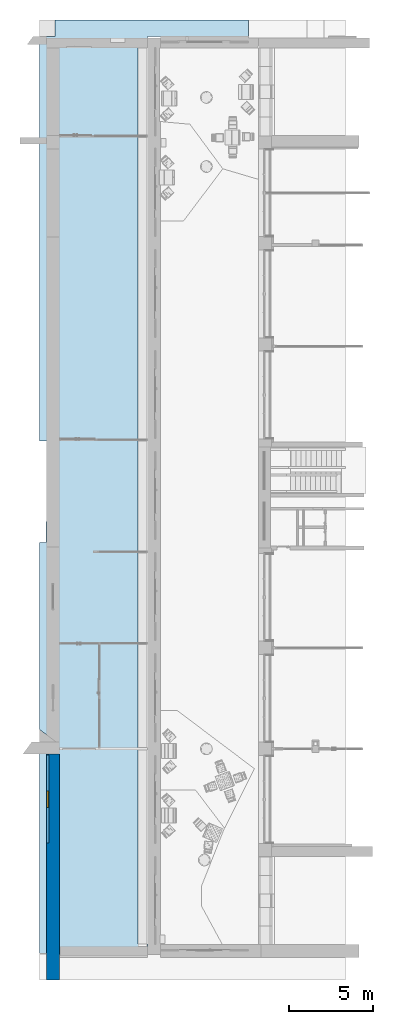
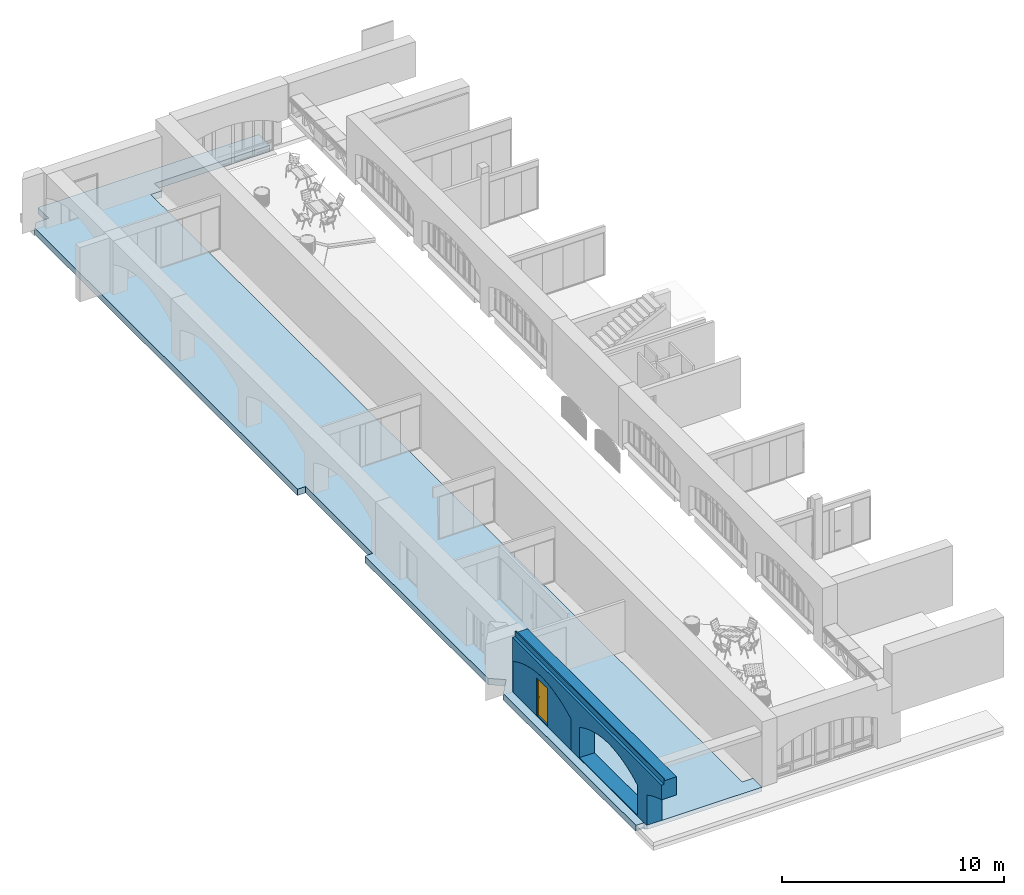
# One storey, part 77 of 88: 2 walls, 1 door, 1 slab, 3 openings.
"""IFC2X3 building model written with IfcOpenShell, lengths in millimetres."""

from ifc_helpers import new_model, entity, si_unit, converted_unit, derived_unit, direction, frame, frame_2d, origin, place, context, subcontext, project, spatial, polyline, rectangle, outline, extrude, faceted_brep, source, transform, mapped, material, layer, layer_set, type_object, type_shapes, element, fill, save


model = new_model("IFC2X3")

# Units and contexts
model_context = context("Model", 3, precision=0.01, world=origin(), true_north=direction((6.123031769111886e-17, 1.0)))
body_context = subcontext(model_context, "Body", "Model", "MODEL_VIEW")
ifc_project = project(units=[si_unit("LENGTHUNIT", "METRE", prefix="MILLI"), si_unit("AREAUNIT", "SQUARE_METRE"), si_unit("VOLUMEUNIT", "CUBIC_METRE"), converted_unit("PLANEANGLEUNIT", "DEGREE", entity("IfcPlaneAngleMeasure", 0.017453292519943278), si_unit("PLANEANGLEUNIT", "RADIAN"), dimensions=[0, 0, 0, 0, 0, 0, 0]), si_unit("MASSUNIT", "GRAM", prefix="KILO"), derived_unit("MASSDENSITYUNIT", [(si_unit("MASSUNIT", "GRAM", prefix="KILO"), 1), (si_unit("LENGTHUNIT", "METRE"), -3)]), derived_unit("IONCONCENTRATIONUNIT", [(si_unit("MASSUNIT", "GRAM", prefix="KILO"), 1), (si_unit("LENGTHUNIT", "METRE"), -3)]), derived_unit("MOMENTOFINERTIAUNIT", [(si_unit("LENGTHUNIT", "METRE"), 4)]), si_unit("TIMEUNIT", "SECOND"), si_unit("FREQUENCYUNIT", "HERTZ"), si_unit("THERMODYNAMICTEMPERATUREUNIT", "DEGREE_CELSIUS"), derived_unit("THERMALTRANSMITTANCEUNIT", [(si_unit("MASSUNIT", "GRAM", prefix="KILO"), 1), (si_unit("THERMODYNAMICTEMPERATUREUNIT", "KELVIN"), -1), (si_unit("TIMEUNIT", "SECOND"), -3)]), derived_unit("THERMALCONDUCTANCEUNIT", [(si_unit("MASSUNIT", "GRAM", prefix="KILO"), 1), (si_unit("THERMODYNAMICTEMPERATUREUNIT", "KELVIN"), -1), (si_unit("TIMEUNIT", "SECOND"), -3), (si_unit("LENGTHUNIT", "METRE"), 1)]), derived_unit("VOLUMETRICFLOWRATEUNIT", [(si_unit("LENGTHUNIT", "METRE", prefix="DECI"), 3), (si_unit("TIMEUNIT", "SECOND"), -1)]), derived_unit("MASSFLOWRATEUNIT", [(si_unit("MASSUNIT", "GRAM", prefix="KILO"), 1), (si_unit("TIMEUNIT", "SECOND"), -1)]), derived_unit("ROTATIONALFREQUENCYUNIT", [(si_unit("TIMEUNIT", "SECOND"), -1)]), si_unit("ELECTRICCURRENTUNIT", "AMPERE"), si_unit("ELECTRICVOLTAGEUNIT", "VOLT"), si_unit("POWERUNIT", "WATT"), si_unit("FORCEUNIT", "NEWTON", prefix="KILO"), si_unit("ILLUMINANCEUNIT", "LUX"), si_unit("LUMINOUSFLUXUNIT", "LUMEN"), si_unit("LUMINOUSINTENSITYUNIT", "CANDELA"), si_unit("ENERGYUNIT", "JOULE"), derived_unit("USERDEFINED", [(si_unit("MASSUNIT", "GRAM", prefix="KILO"), -1), (si_unit("LENGTHUNIT", "METRE"), -2), (si_unit("TIMEUNIT", "SECOND"), 3), (si_unit("LUMINOUSFLUXUNIT", "LUMEN"), 1)]), derived_unit("USERDEFINED", [(si_unit("MASSUNIT", "GRAM", prefix="KILO"), 1), (si_unit("TIMEUNIT", "SECOND"), -3), (si_unit("LENGTHUNIT", "METRE"), 3), (si_unit("ELECTRICCURRENTUNIT", "AMPERE"), -2)]), derived_unit("SOUNDPOWERUNIT", [(si_unit("MASSUNIT", "GRAM", prefix="KILO"), 1), (si_unit("TIMEUNIT", "SECOND"), -3), (si_unit("LENGTHUNIT", "METRE"), 2)]), derived_unit("SOUNDPRESSUREUNIT", [(si_unit("MASSUNIT", "GRAM", prefix="KILO"), 1), (si_unit("LENGTHUNIT", "METRE"), -1), (si_unit("TIMEUNIT", "SECOND"), -2)]), derived_unit("LINEARVELOCITYUNIT", [(si_unit("LENGTHUNIT", "METRE"), 1), (si_unit("TIMEUNIT", "SECOND"), -1)]), si_unit("PRESSUREUNIT", "PASCAL"), derived_unit("USERDEFINED", [(si_unit("MASSUNIT", "GRAM", prefix="KILO"), 1), (si_unit("LENGTHUNIT", "METRE"), -2), (si_unit("TIMEUNIT", "SECOND"), -2)]), derived_unit("LINEARFORCEUNIT", [(si_unit("MASSUNIT", "GRAM", prefix="KILO"), 1), (si_unit("TIMEUNIT", "SECOND"), -2)]), derived_unit("PLANARFORCEUNIT", [(si_unit("MASSUNIT", "GRAM", prefix="KILO"), 1), (si_unit("LENGTHUNIT", "METRE"), -1), (si_unit("TIMEUNIT", "SECOND"), -2)]), derived_unit("SPECIFICHEATCAPACITYUNIT", [(si_unit("THERMODYNAMICTEMPERATUREUNIT", "KELVIN"), -1), (si_unit("LENGTHUNIT", "METRE"), 2), (si_unit("TIMEUNIT", "SECOND"), -2)]), derived_unit("HEATFLUXDENSITYUNIT", [(si_unit("MASSUNIT", "GRAM", prefix="KILO"), 1), (si_unit("TIMEUNIT", "SECOND"), -3)]), derived_unit("HEATINGVALUEUNIT", [(si_unit("LENGTHUNIT", "METRE"), 2), (si_unit("TIMEUNIT", "SECOND"), -2)]), derived_unit("VAPORPERMEABILITYUNIT", [(si_unit("LENGTHUNIT", "METRE"), -1), (si_unit("TIMEUNIT", "SECOND"), 1)]), derived_unit("DYNAMICVISCOSITYUNIT", [(si_unit("MASSUNIT", "GRAM", prefix="KILO"), 1), (si_unit("TIMEUNIT", "SECOND"), -1), (si_unit("LENGTHUNIT", "METRE"), -1)]), derived_unit("THERMALEXPANSIONCOEFFICIENTUNIT", [(si_unit("THERMODYNAMICTEMPERATUREUNIT", "KELVIN"), -1)]), derived_unit("MODULUSOFELASTICITYUNIT", [(si_unit("MASSUNIT", "GRAM", prefix="KILO"), 1), (si_unit("LENGTHUNIT", "METRE"), -1), (si_unit("TIMEUNIT", "SECOND"), -2)]), derived_unit("ISOTHERMALMOISTURECAPACITYUNIT", [(si_unit("MASSUNIT", "GRAM", prefix="KILO"), -1), (si_unit("LENGTHUNIT", "METRE"), 3)]), derived_unit("MOISTUREDIFFUSIVITYUNIT", [(si_unit("TIMEUNIT", "SECOND"), -1), (si_unit("LENGTHUNIT", "METRE"), 2)]), derived_unit("MASSPERLENGTHUNIT", [(si_unit("MASSUNIT", "GRAM", prefix="KILO"), 1), (si_unit("LENGTHUNIT", "METRE"), -1)]), derived_unit("THERMALRESISTANCEUNIT", [(si_unit("MASSUNIT", "GRAM", prefix="KILO"), -1), (si_unit("TIMEUNIT", "SECOND"), 3), (si_unit("THERMODYNAMICTEMPERATUREUNIT", "KELVIN"), 1)]), derived_unit("ACCELERATIONUNIT", [(si_unit("LENGTHUNIT", "METRE"), 1), (si_unit("TIMEUNIT", "SECOND"), -2)]), derived_unit("ANGULARVELOCITYUNIT", [(si_unit("TIMEUNIT", "SECOND"), -1), (si_unit("PLANEANGLEUNIT", "RADIAN"), 1)]), derived_unit("LINEARSTIFFNESSUNIT", [(si_unit("MASSUNIT", "GRAM", prefix="KILO"), 1), (si_unit("TIMEUNIT", "SECOND"), -2)]), derived_unit("WARPINGCONSTANTUNIT", [(si_unit("LENGTHUNIT", "METRE"), 6)]), derived_unit("LINEARMOMENTUNIT", [(si_unit("MASSUNIT", "GRAM", prefix="KILO"), 1), (si_unit("LENGTHUNIT", "METRE"), 1), (si_unit("TIMEUNIT", "SECOND"), -2)]), derived_unit("TORQUEUNIT", [(si_unit("MASSUNIT", "GRAM", prefix="KILO"), 1), (si_unit("LENGTHUNIT", "METRE"), 2), (si_unit("TIMEUNIT", "SECOND"), -2)])], contexts=[model_context])

# Site, building, storey
site_placement = place(None, origin())
site = spatial("IfcSite", under=ifc_project, at=site_placement, Name="Default", CompositionType="ELEMENT")
building_placement = place(site_placement, origin())
building = spatial("IfcBuilding", under=site, at=building_placement, Name="Eesti Rahvusraamatukogu hoone renoveerimise projekteerimistööd", CompositionType="ELEMENT")
storey_placement = place(building_placement, origin())
storey = spatial("IfcBuildingStorey", under=building, at=storey_placement, Name="1. korrus", CompositionType="ELEMENT", Elevation=0.0)

# Slab, openings
ifc_material_1 = material(Name="ol. olev materjal")
slab_type = type_object("IfcSlabType", Name="Floor:ol. olev - 350mm", PredefinedType="FLOOR")
slab_placement = place(storey_placement, origin())
slab = element("IfcSlab", 1, at=slab_placement, inside=storey, type_object=slab_type, material=ifc_material_1, Name="Floor:ol. olev - 350mm", ObjectType="Floor:ol. olev - 350mm", PredefinedType="FLOOR", context=body_context, shape_type="Brep", body=[
    faceted_brep([(-37370.0, 55645.92198742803, -350.0), (-37370.0, 54660.37627987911, -350.0), (-37380.0, 54660.37627987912, -350.0), (-43370.0, 54660.37627987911, -350.0), (-43370.0, 53990.376279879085, -350.0), (-43940.0, 53990.376279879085, -350.0), (-43940.0, 810.3762798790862, -350.0), (-43380.0, 810.3762798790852, -350.0), (-43370.0, 810.3762798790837, -350.0), (-43370.0, 796.0, -350.0), (-43370.0, 196.0, -350.0), (-43940.0, 196.0, -350.0), (-44540.0, 196.0, -350.0), (-49360.0, 196.0, -350.0), (-49360.0, 276.45858752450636, -350.0), (-49781.62808124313, 276.45858752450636, -350.0), (-49781.62808124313, 12181.997703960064, -350.0), (-49125.97520486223, 13058.823348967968, -350.0), (-49781.62808124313, 13552.89322942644, -350.0), (-49781.62808124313, 24630.677958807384, -350.0), (-49375.53894964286, 24630.677958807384, -350.0), (-49360.0, 30676.421162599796, -350.0), (-49781.62808124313, 30676.421162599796, -350.0), (-49781.62808124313, 54324.78898556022, -350.0), (-49513.67383544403, 54680.37627987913, -350.0), (-48850.0, 54680.37627987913, -350.0), (-48850.0, 55645.92198742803, -350.0), (-47603.99999999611, 55645.92198742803, -350.0), (-47003.99999999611, 55645.92198742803, -350.0), (-44540.0, 55645.92198742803, -350.0), (-43940.0, 55645.92198742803, -350.0), (-37380.0, 55645.92198742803, -350.0), (-48850.0, 55645.92198742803, 0.0), (-48850.0, 54680.37627987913, 0.0), (-49513.67383544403, 54680.37627987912, 0.0), (-49781.62808124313, 54324.78898556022, 0.0), (-49781.62808124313, 30676.421162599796, 0.0), (-49360.0, 30676.421162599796, 0.0), (-49375.53894964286, 24630.677958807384, 0.0), (-49781.62808124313, 24630.677958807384, 0.0), (-49781.62808124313, 13552.89322942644, 0.0), (-49125.97520486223, 13058.823348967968, 0.0), (-49781.62808124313, 12181.997703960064, 0.0), (-49781.62808124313, 236.0, 0.0), (-49360.0, 236.0, 0.0), (-49360.0, 0.0, 0.0), (-43370.0, 0.0, 0.0), (-43370.0, 196.0, 0.0), (-43370.0, 810.3762798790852, 0.0), (-43940.0, 810.3762798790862, 0.0), (-43940.0, 53990.376279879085, 0.0), (-43370.0, 53990.376279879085, 0.0), (-43370.0, 54660.37627987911, 0.0), (-41092.5000000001, 54660.37627987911, 0.0), (-40947.5000000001, 54660.37627987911, 0.0), (-37390.0, 54660.37627987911, 0.0), (-37370.0, 54660.37627987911, 0.0), (-37370.0, 54710.37627987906, 0.0), (-37370.0, 55645.92198742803, 0.0), (-37370.0, 54660.37627987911, -300.0), (-37370.0, 54660.37627987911, -80.0), (-49360.0, 0.0, -230.0), (-43370.0, 0.0, -230.0), (-49360.0, 236.0, -230.0), (-49360.0, 276.45858752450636, -230.0), (-49360.0, 196.0, -230.0), (-49781.62808124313, 236.0, -25.0), (-49781.62808124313, 236.0, -95.0), (-49781.62808124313, 236.0, -230.0), (-37370.0, 55645.92198742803, -300.0), (-37370.0, 55645.92198742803, -80.0), (-48850.0, 54680.37627987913, -230.0), (-49513.67383544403, 54680.37627987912, -230.0), (-49781.62808124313, 276.45858752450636, -230.0), (-43370.0, 196.0, -230.0)], [[[0, 1, 2, 3, 4, 5, 6, 7, 8, 9, 10, 11, 12, 13, 14, 15, 16, 17, 18, 19, 20, 21, 22, 23, 24, 25, 26, 27, 28, 29, 30, 31]], [[32, 33, 34, 35, 36, 37, 38, 39, 40, 41, 42, 43, 44, 45, 46, 47, 48, 49, 50, 51, 52, 53, 54, 55, 56, 57, 58]], [[3, 2, 1, 59, 60, 56, 55, 54, 53, 52]], [[3, 52, 51, 4]], [[18, 17, 41, 40]], [[46, 45, 61, 62]], [[45, 44, 63, 64, 14, 13, 65, 61]], [[44, 43, 66, 67, 68, 63]], [[17, 16, 42, 41]], [[1, 0, 69, 70, 58, 57, 56, 60, 59]], [[20, 19, 39, 38]], [[21, 20, 38, 37]], [[22, 21, 37, 36]], [[26, 25, 71, 33, 32]], [[25, 24, 72, 34, 33, 71]], [[24, 23, 35, 34, 72]], [[15, 14, 64, 73]], [[73, 64, 63, 68]], [[74, 65, 13, 12, 11, 10]], [[6, 49, 48, 8, 7]], [[49, 6, 5, 50]], [[50, 5, 4, 51]], [[16, 15, 73, 68, 67, 66, 43, 42]], [[0, 31, 30, 29, 28, 27, 26, 32, 58, 70, 69]], [[19, 18, 40, 39]], [[23, 22, 36, 35]], [[65, 74, 62, 61]], [[48, 47, 46, 62, 74, 10, 9, 8]]]),
])
opening_1_placement = place(slab_placement, origin())
element("IfcOpeningElement", 2, at=opening_1_placement, cuts=slab, Name="Floor:ol. olev - 350mm", ObjectType="Opening", context=body_context, shape_type="SweptSolid", body=[
    extrude(rectangle(XDim=53180.00000000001, YDim=569.9999999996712, at=frame_2d((0.0, -4.348521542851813e-12), x_axis=(1.0, 0.0))), frame((-43655.0, 27400.376279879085, -840.0), z_axis=(0.0, 0.0, 1.0), x_axis=(0.0, 1.0, 0.0)), (0.0, 0.0, 1.0), 1018.7291877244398),
])
opening_2_placement = place(slab_placement, origin())
element("IfcOpeningElement", 3, at=opening_2_placement, cuts=slab, Name="Floor:ol. olev - 350mm", ObjectType="Opening", context=body_context, shape_type="SweptSolid", body=[
    extrude(outline(polyline([(1039.0430301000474, -1898.332304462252), (3296.58056094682, -1898.3323044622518), (3296.580560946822, 486.3030667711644), (3394.802963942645, 616.6485980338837), (-3431.8057909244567, 5760.8672737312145), (-7057.814920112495, 923.1704932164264), (-537.3864048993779, -3990.3248228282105), (1039.0430301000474, -1898.332304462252)])), frame((-55567.73843993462, 28140.90027064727, 0.0), z_axis=(0.0, 0.0, -1.0), x_axis=(-0.7986355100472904, 0.6018150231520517, 0.0)), (0.0, 0.0, 1.0), 349.99999999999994),
])

# Wall
ifc_layer_1 = layer(ifc_material_1, 780.0)
ifc_layer_set_1 = layer_set([ifc_layer_1], Name="Basic Wall:ol. olev - 780mm")
wall_type_1 = type_object("IfcWallType", Name="Basic Wall:ol. olev - 780mm", PredefinedType="STANDARD", material=ifc_layer_set_1)
wall_1_placement = place(storey_placement, frame((-48970.0, 12075.0, 0.0), z_axis=(0.0, 0.0, 1.0), x_axis=(0.0, -1.0, 0.0)))
element("IfcWall", 4, at=wall_1_placement, inside=storey, type_object=wall_type_1, Name="Basic Wall:ol. olev - 780mm", ObjectType="Basic Wall:ol. olev - 780mm", context=body_context, shape_type="Brep", body=[
    faceted_brep([(13396.27979016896, 390.0, 2200.0036966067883), (13396.27979016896, 390.0, 3200.0), (13396.279790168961, -223.15799976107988, 3200.0), (13396.279790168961, -223.15799976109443, 3295.0), (13396.279790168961, -250.0, 3295.0), (13396.279790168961, -250.0, 3005.0), (13396.279790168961, -390.0, 3005.0), (13396.279790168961, -390.0, 2200.0036966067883), (0.0, -390.0, 0.0), (42.6533793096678, -390.0, 45.0), (42.653379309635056, -390.0, 1705.0), (0.0, -390.0, 3005.0), (5262.653379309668, -390.0, 45.0), (11239.0, -390.0, 0.0), (6019.0, -390.0, 45.0), (11239.0, -390.0, 45.0), (11799.0, -390.0, 0.0), (11239.0, -390.0, 1705.0), (12075.0, -390.0, 1660.0), (12075.0, -390.0, 0.0), (11799.0, -390.0, 3005.0), (12284.398450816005, -390.0, 1774.360772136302), (12498.70361813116, -390.0, 1879.2378839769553), (12717.486535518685, -390.0, 1974.4214419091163), (12940.308923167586, -390.0, 2059.7207864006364), (13166.724499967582, -390.0, 2134.965098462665), (11239.0, -390.0, 3005.0), (3148.517343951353, -390.0, 2384.748116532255), (11020.131628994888, -390.0, 1822.5908904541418), (10796.143131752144, -390.0, 1930.108956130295), (10567.49778115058, -390.0, 2027.3318186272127), (10334.66848178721, -390.0, 2114.0583929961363), (8133.136035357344, -390.0, 2384.748116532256), (8380.723976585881, -390.0, 2405.513296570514), (8629.0, -390.0, 2415.0), (8877.276023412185, -390.0, 2405.513296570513), (10098.136791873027, -390.0, 2190.10930364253), (9858.391927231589, -390.0, 2255.3272553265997), (9615.929749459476, -390.0, 2309.5773584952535), (9371.251740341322, -390.0, 2352.7474082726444), (9124.863964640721, -390.0, 2384.748116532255), (5262.653379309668, -390.0, 1705.0), (6019.0, -390.0, 1705.0), (5043.785008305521, -390.0, 1822.5908904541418), (6237.868371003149, -390.0, 1822.5908904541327), (6461.8568682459, -390.0, 1930.1089561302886), (4819.796511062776, -390.0, 1930.108956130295), (6690.502218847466, -390.0, 2027.3318186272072), (4591.1511604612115, -390.0, 2027.3318186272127), (6923.331518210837, -390.0, 2114.058392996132), (4358.321861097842, -390.0, 2114.0583929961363), (7159.863208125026, -390.0, 2190.109303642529), (4121.790171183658, -390.0, 2190.10930364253), (7399.608072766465, -390.0, 2255.327255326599), (3882.0453065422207, -390.0, 2255.3272553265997), (7642.0702505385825, -390.0, 2309.577358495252), (3639.5831287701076, -390.0, 2309.5773584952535), (7886.74825965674, -390.0, 2352.7474082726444), (3394.905119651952, -390.0, 2352.7474082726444), (261.52175031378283, -390.0, 1822.5908904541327), (485.5102475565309, -390.0, 1930.1089561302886), (714.1555981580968, -390.0, 2027.3318186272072), (946.98489752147, -390.0, 2114.058392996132), (1183.5165874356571, -390.0, 2190.1093036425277), (1423.2614520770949, -390.0, 2255.327255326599), (1665.7236298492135, -390.0, 2309.577358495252), (1910.4016389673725, -390.0, 2352.7474082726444), (2156.7894146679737, -390.0, 2384.748116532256), (2404.377355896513, -390.0, 2405.513296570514), (2652.653379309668, -390.0, 2415.0), (2900.929402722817, -390.0, 2405.513296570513), (12075.0, 390.0, 0.0), (11239.0, 390.0, 45.0), (12075.0, 390.0, 1660.0), (6019.0, 390.0, 45.0), (0.0, 390.0, 0.0), (5262.6533793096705, 390.0, 45.0), (42.6533793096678, 390.0, 45.0), (42.6533793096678, 390.0, 1705.0), (0.0, 390.0, 3100.0), (261.52175031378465, 390.0, 1822.5908904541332), (485.5102475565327, 390.0, 1930.1089561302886), (714.1555981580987, 390.0, 2027.3318186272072), (946.9848975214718, 390.0, 2114.058392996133), (1183.516587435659, 390.0, 2190.109303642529), (0.0, 390.0, 3200.0), (1423.2614520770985, 390.0, 2255.3272553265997), (1665.723629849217, 390.0, 2309.5773584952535), (1910.4016389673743, 390.0, 2352.7474082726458), (2156.789414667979, 390.0, 2384.748116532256), (2404.3773558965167, 390.0, 2405.513296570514), (2652.6533793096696, 390.0, 2415.0), (2900.9294027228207, 390.0, 2405.513296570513), (3148.5173439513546, 390.0, 2384.748116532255), (3394.905119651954, 390.0, 2352.7474082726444), (7886.748259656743, 390.0, 2352.7474082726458), (8133.136035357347, 390.0, 2384.748116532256), (8380.723976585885, 390.0, 2405.513296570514), (8629.0, 390.0, 2415.0), (8877.276023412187, 390.0, 2405.513296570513), (9124.863964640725, 390.0, 2384.748116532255), (9371.251740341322, 390.0, 2352.7474082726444), (9615.929749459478, 390.0, 2309.577358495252), (9858.39192723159, 390.0, 2255.3272553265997), (10098.136791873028, 390.0, 2190.10930364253), (10334.668481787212, 390.0, 2114.0583929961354), (10567.497781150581, 390.0, 2027.3318186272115), (10796.143131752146, 390.0, 1930.108956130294), (11020.131628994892, 390.0, 1822.5908904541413), (12498.70361813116, 390.0, 1879.237883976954), (12717.486535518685, 390.0, 1974.421441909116), (12940.308923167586, 390.0, 2059.7207864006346), (13166.72449996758, 390.0, 2134.9650984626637), (12284.398450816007, 390.0, 1774.3607721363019), (11239.0, 390.0, 1705.0), (3639.5831287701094, 390.0, 2309.577358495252), (7642.070250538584, 390.0, 2309.5773584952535), (3882.0453065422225, 390.0, 2255.3272553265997), (7399.608072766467, 390.0, 2255.3272553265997), (4121.7901711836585, 390.0, 2190.10930364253), (7159.863208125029, 390.0, 2190.109303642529), (4358.321861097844, 390.0, 2114.0583929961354), (6923.33151821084, 390.0, 2114.058392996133), (4591.151160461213, 390.0, 2027.3318186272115), (6690.502218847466, 390.0, 2027.3318186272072), (4819.796511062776, 390.0, 1930.108956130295), (6461.856868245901, 390.0, 1930.1089561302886), (6237.868371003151, 390.0, 1822.5908904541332), (5043.785008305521, 390.0, 1822.5908904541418), (6019.0, 390.0, 1705.0), (5262.653379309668, 390.0, 1705.0), (0.0, -250.0, 3295.0), (0.0, -195.5313553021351, 3295.0), (0.0, -250.0, 3005.0), (0.0, -195.5313553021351, 3200.0)], [[[0, 1, 2, 3, 4, 5, 6, 7]], [[8, 9, 10]], [[8, 10, 11]], [[9, 8, 12]], [[12, 8, 13]], [[14, 12, 13]], [[14, 13, 15]], [[16, 15, 13]], [[17, 15, 16]], [[16, 18, 17]], [[18, 16, 19]], [[17, 18, 20]], [[21, 20, 18]], [[22, 20, 21]], [[23, 20, 22]], [[24, 20, 23]], [[6, 20, 24]], [[25, 6, 24]], [[25, 7, 6]], [[26, 17, 20]], [[11, 27, 26]], [[26, 28, 17]], [[29, 28, 26]], [[26, 30, 29]], [[26, 31, 30]], [[32, 26, 27]], [[32, 33, 26]], [[33, 34, 26]], [[34, 35, 26]], [[31, 26, 36]], [[37, 36, 26]], [[26, 38, 37]], [[38, 26, 39]], [[40, 39, 26]], [[40, 26, 35]], [[41, 12, 14]], [[14, 42, 41]], [[41, 42, 43]], [[44, 43, 42]], [[43, 44, 45]], [[45, 46, 43]], [[47, 46, 45]], [[48, 46, 47]], [[47, 49, 48]], [[50, 48, 49]], [[49, 51, 50]], [[51, 52, 50]], [[51, 53, 52]], [[53, 54, 52]], [[53, 55, 54]], [[55, 56, 54]], [[57, 56, 55]], [[56, 57, 58]], [[32, 58, 57]], [[32, 27, 58]], [[10, 59, 11]], [[59, 60, 11]], [[60, 61, 11]], [[62, 11, 61]], [[62, 63, 11]], [[63, 64, 11]], [[64, 65, 11]], [[66, 11, 65]], [[11, 66, 67]], [[67, 68, 11]], [[11, 68, 69]], [[69, 70, 11]], [[70, 27, 11]], [[71, 72, 73]], [[72, 71, 74]], [[74, 71, 75]], [[76, 74, 75]], [[77, 76, 75]], [[77, 75, 78]], [[78, 75, 79]], [[80, 78, 79]], [[80, 79, 81]], [[82, 81, 79]], [[83, 82, 79]], [[84, 83, 79]], [[84, 79, 85]], [[86, 84, 85]], [[87, 86, 85]], [[85, 88, 87]], [[89, 88, 85]], [[89, 85, 90]], [[91, 90, 85]], [[92, 91, 85]], [[93, 92, 85]], [[94, 93, 85]], [[94, 85, 95]], [[85, 96, 95]], [[97, 96, 85]], [[1, 97, 85]], [[98, 97, 1]], [[99, 98, 1]], [[1, 100, 99]], [[101, 100, 1]], [[1, 102, 101]], [[102, 1, 103]], [[1, 104, 103]], [[104, 1, 105]], [[1, 106, 105]], [[106, 1, 107]], [[107, 1, 108]], [[109, 108, 1]], [[1, 110, 109]], [[1, 111, 110]], [[112, 111, 1]], [[1, 0, 112]], [[109, 113, 108]], [[73, 114, 113]], [[114, 108, 113]], [[95, 115, 94]], [[95, 116, 115]], [[116, 117, 115]], [[116, 118, 117]], [[117, 118, 119]], [[118, 120, 119]], [[121, 119, 120]], [[122, 121, 120]], [[121, 122, 123]], [[122, 124, 123]], [[125, 123, 124]], [[126, 125, 124]], [[127, 125, 126]], [[128, 125, 127]], [[129, 128, 127]], [[130, 129, 74]], [[128, 129, 130]], [[130, 74, 76]], [[73, 72, 114]], [[19, 16, 13, 8, 75, 71]], [[131, 4, 3, 132]], [[112, 0, 7, 25]], [[111, 112, 25, 24]], [[111, 24, 23, 110]], [[113, 109, 22, 21]], [[73, 113, 21, 18]], [[23, 22, 109, 110]], [[71, 73, 18, 19]], [[14, 74, 129, 42]], [[42, 129, 127, 44]], [[44, 127, 126, 45]], [[47, 124, 122, 49]], [[124, 47, 45, 126]], [[51, 49, 122, 120]], [[120, 118, 53, 51]], [[55, 53, 118, 116]], [[55, 116, 95, 57]], [[33, 32, 96, 97]], [[96, 32, 57, 95]], [[34, 33, 97, 98]], [[35, 34, 98, 99]], [[35, 99, 100, 40]], [[38, 39, 101, 102]], [[101, 39, 40, 100]], [[37, 38, 102, 103]], [[103, 104, 36, 37]], [[31, 36, 104, 105]], [[31, 105, 106, 30]], [[28, 29, 107, 108]], [[107, 29, 30, 106]], [[17, 28, 108, 114]], [[17, 114, 72, 15]], [[15, 72, 74, 14]], [[12, 76, 77, 9]], [[9, 77, 78, 10]], [[10, 78, 80, 59]], [[59, 80, 81, 60]], [[61, 82, 83, 62]], [[82, 61, 60, 81]], [[63, 62, 83, 84]], [[84, 86, 64, 63]], [[65, 64, 86, 87]], [[65, 87, 88, 66]], [[68, 67, 89, 90]], [[89, 67, 66, 88]], [[69, 68, 90, 91]], [[70, 69, 91, 92]], [[70, 92, 93, 27]], [[56, 58, 94, 115]], [[94, 58, 27, 93]], [[54, 56, 115, 117]], [[117, 119, 52, 54]], [[50, 52, 119, 121]], [[50, 121, 123, 48]], [[43, 46, 125, 128]], [[125, 46, 48, 123]], [[41, 43, 128, 130]], [[12, 41, 130, 76]], [[5, 133, 11, 26, 20, 6]], [[131, 133, 5, 4]], [[2, 134, 132, 3]], [[134, 2, 1, 85]], [[11, 133, 131, 132, 134, 85, 79, 75, 8]]]),
])

# Wall, opening, door
ifc_material_2 = material(Name="EST. Müüritis. Väikeplokk. Betoon-õõnesplokk")
ifc_layer_2 = layer(ifc_material_2, 150.0)
ifc_layer_set_2 = layer_set([ifc_layer_2], Name="Basic Wall:SS-71 - 150 poorbetoon acoustic")
wall_type_2 = type_object("IfcWallType", Name="Basic Wall:SS-71 - 150 poorbetoon acoustic", PredefinedType="STANDARD", material=ifc_layer_set_2)
wall_2_placement = place(storey_placement, frame((-49285.0, 12032.346620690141, 0.0), z_axis=(0.0, 0.0, 1.0), x_axis=(0.0, -1.0, 0.0)))
wall_2 = element("IfcWall", 5, at=wall_2_placement, inside=storey, type_object=wall_type_2, Name="Basic Wall:SS-71 - 150 poorbetoon acoustic", ObjectType="Basic Wall:SS-71 - 150 poorbetoon acoustic", context=body_context, shape_type="Brep", body=[
    faceted_brep([(5220.0, -75.0, 0.0), (3120.0, -75.0, 0.0), (3120.0, 75.0, 0.0), (5220.0, 75.0, 0.0), (2120.0, -75.0, 0.0), (0.0, -75.0, 0.0), (0.0, 75.0, 0.0), (2120.0, 75.0, 0.0), (0.0, -75.0, 1705.0), (2120.0, -75.0, 2100.0), (3120.0, -75.0, 2100.0), (5220.0, -75.0, 1705.0), (4777.143131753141, -75.0, 1930.1089561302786), (4315.668481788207, -75.0, 2114.058392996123), (3956.299115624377, -75.0, 2211.8178757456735), (3596.929749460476, -75.0, 2309.5773584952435), (3105.8639646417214, -75.0, 2384.7481165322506), (2610.0, -75.0, 2415.0), (2114.136035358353, -75.0, 2384.7481165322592), (1623.0702505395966, -75.0, 2309.577358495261), (1263.700884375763, -75.0, 2211.8178757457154), (904.3315182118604, -75.0, 2114.0583929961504), (442.8568682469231, -75.0, 1930.1089561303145), (5220.0, 75.0, 1705.0), (3120.0, 75.0, 2100.0), (2120.0, 75.0, 2100.0), (0.0, 75.0, 1705.0), (442.8568682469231, 75.0, 1930.1089561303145), (904.3315182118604, 75.0, 2114.0583929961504), (1263.7008843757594, 75.0, 2211.8178757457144), (1623.0702505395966, 75.0, 2309.577358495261), (2114.136035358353, 75.0, 2384.7481165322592), (2610.0, 75.0, 2415.0), (3105.8639646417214, 75.0, 2384.7481165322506), (3596.929749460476, 75.0, 2309.5773584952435), (3956.299115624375, 75.0, 2211.817875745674), (4315.668481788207, 75.0, 2114.058392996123), (4777.143131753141, 75.0, 1930.1089561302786)], [[[0, 1, 2, 3]], [[4, 5, 6, 7]], [[8, 5, 4, 9, 10, 1, 0, 11, 12, 13, 14, 15, 16, 17, 18, 19, 20, 21, 22]], [[23, 3, 2, 24, 25, 7, 6, 26, 27, 28, 29, 30, 31, 32, 33, 34, 35, 36, 37]], [[11, 0, 3, 23]], [[5, 8, 26, 6]], [[11, 23, 37, 12]], [[12, 37, 36, 13]], [[13, 36, 35, 34, 15, 14]], [[15, 34, 33, 16]], [[16, 33, 32, 17]], [[17, 32, 31, 18]], [[18, 31, 30, 19]], [[19, 30, 29, 28, 21, 20]], [[21, 28, 27, 22]], [[22, 27, 26, 8]], [[2, 1, 10, 24]], [[24, 10, 9, 25]], [[25, 9, 4, 7]]]),
])
opening_3_placement = place(wall_2_placement, frame((2120.0, -75.0, 0.0)))
opening_3 = element("IfcOpeningElement", 6, at=opening_3_placement, cuts=wall_2, Name="SMA_D01, 1-poolne:SU-00 - 1000x2100 lävepakuta:1", ObjectType="Opening", context=body_context, shape_type="SweptSolid", body=[
    extrude(rectangle(XDim=2099.999999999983, YDim=999.9999999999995, at=frame_2d((1049.9999999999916, 499.9999999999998), x_axis=(1.0, 0.0))), frame((0.0, 0.0, 0.0), z_axis=(0.0, 1.0, 0.0), x_axis=(0.0, 0.0, 1.0)), (0.0, 0.0, 1.0), 150.0),
])
ifc_material_3 = material(Name="EST. Metall. Alumiinium. Värvitud.")
door_style = type_object("IfcDoorStyle", Name="SMA_D01, 1-poolne:SU-00 - 1000x2100 lävepakuta", ConstructionType="NOTDEFINED", OperationType="SINGLE_SWING_RIGHT", ParameterTakesPrecedence=False, Sizeable=False, material=ifc_material_3)
shared_shape = source(origin(), body_context, "Body", "Brep", [
    faceted_brep([(110.0, 40.0, 1112.5), (110.0, 78.0, 1112.5), (85.0, 78.0, 1112.5), (85.0, 35.0, 1112.5), (205.0, 35.0, 1112.5), (205.0, 40.0, 1112.5), (110.0, 40.0, 1087.5), (205.0, 40.0, 1087.5), (205.0, 35.0, 1087.5), (85.0, 35.0, 1087.5), (85.0, 78.0, 1087.5), (110.0, 78.0, 1087.5)], [[[0, 1, 2, 3, 4, 5]], [[6, 7, 8, 9, 10, 11]], [[1, 0, 6, 11]], [[2, 1, 11, 10]], [[3, 2, 10, 9]], [[4, 3, 9, 8]], [[5, 4, 8, 7]], [[0, 5, 7, 6]]]),
    faceted_brep([(122.49999999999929, 78.0, 1137.5), (122.49999999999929, 80.0, 1137.5), (72.49999999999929, 80.0, 1137.5), (72.49999999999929, 78.0, 1137.5), (122.49999999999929, 78.0, 1017.5), (72.49999999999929, 78.0, 1017.5), (72.49999999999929, 80.0, 1017.5), (122.49999999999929, 80.0, 1017.5)], [[[0, 1, 2, 3]], [[4, 5, 6, 7]], [[1, 0, 4, 7]], [[2, 1, 7, 6]], [[3, 2, 6, 5]], [[0, 3, 5, 4]]]),
    faceted_brep([(110.0, 170.0, 1112.5), (205.0, 170.0, 1112.5), (205.0, 175.0, 1112.5), (85.0, 175.0, 1112.5), (85.0, 132.0, 1112.5), (110.0, 132.0, 1112.5), (110.0, 170.0, 1087.5), (110.0, 132.0, 1087.5), (85.0, 132.0, 1087.5), (85.0, 175.0, 1087.5), (205.0, 175.0, 1087.5), (205.0, 170.0, 1087.5)], [[[0, 1, 2, 3, 4, 5]], [[6, 7, 8, 9, 10, 11]], [[5, 7, 6, 0]], [[4, 8, 7, 5]], [[3, 9, 8, 4]], [[2, 10, 9, 3]], [[1, 11, 10, 2]], [[0, 6, 11, 1]]]),
    faceted_brep([(122.49999999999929, 132.0, 1137.5), (72.49999999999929, 132.0, 1137.5), (72.49999999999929, 130.0, 1137.5), (122.49999999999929, 130.0, 1137.5), (122.49999999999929, 132.0, 1017.5), (122.49999999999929, 130.0, 1017.5), (72.49999999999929, 130.0, 1017.5), (72.49999999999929, 132.0, 1017.5)], [[[0, 1, 2, 3]], [[4, 5, 6, 7]], [[3, 5, 4, 0]], [[2, 6, 5, 3]], [[1, 7, 6, 2]], [[0, 4, 7, 1]]]),
    faceted_brep([(990.0, 40.0, 0.0), (950.0, 40.0, 0.0), (950.0, 80.0, 0.0), (965.0, 80.0, 0.0), (965.0, 130.0, 0.0), (990.0, 130.0, 0.0), (990.0, 40.0, 2090.0), (10.0, 40.0, 2090.0), (10.0, 40.0, 0.0), (50.0, 40.0, 0.0), (50.0, 40.0, 2050.0), (950.0, 40.0, 2050.0), (950.0, 80.0, 2050.0), (50.0, 80.0, 2050.0), (50.0, 80.0, 0.0), (35.0, 80.0, 0.0), (35.0, 80.0, 2065.0), (965.0, 80.0, 2065.0), (965.0, 130.0, 2065.0), (35.0, 130.0, 2065.0), (35.0, 130.0, 0.0), (10.0, 130.0, 0.0), (10.0, 130.0, 2090.0), (990.0, 130.0, 2090.0)], [[[0, 1, 2, 3, 4, 5]], [[1, 0, 6, 7, 8, 9, 10, 11]], [[2, 1, 11, 12]], [[3, 2, 12, 13, 14, 15, 16, 17]], [[4, 3, 17, 18]], [[5, 4, 18, 19, 20, 21, 22, 23]], [[0, 5, 23, 6]], [[8, 7, 22, 21]], [[9, 8, 21, 20, 15, 14]], [[10, 9, 14, 13]], [[16, 15, 20, 19]], [[11, 10, 13, 12]], [[17, 16, 19, 18]], [[7, 6, 23, 22]]]),
    faceted_brep([(35.0, 80.0, 2065.0), (35.0, 80.0, 20.0), (965.0, 80.0, 20.0), (965.0, 80.0, 2065.0), (35.0, 130.0, 2065.0), (965.0, 130.0, 2065.0), (965.0, 130.0, 20.0), (35.0, 130.0, 20.0)], [[[0, 1, 2, 3]], [[4, 5, 6, 7]], [[1, 0, 4, 7]], [[2, 1, 7, 6]], [[3, 2, 6, 5]], [[0, 3, 5, 4]]]),
])
type_shapes(door_style, [shared_shape])
door_placement = place(opening_3_placement, origin())
door = element("IfcDoor", 7, at=door_placement, inside=storey, type_object=door_style, material=ifc_material_3, Name="SMA_D01, 1-poolne:SU-00 - 1000x2100 lävepakuta", ObjectType="SMA_D01, 1-poolne:SU-00 - 1000x2100 lävepakuta", OverallHeight=2099.999999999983, OverallWidth=1000.0000000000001, context=body_context, shape_type="MappedRepresentation", body=[
    mapped(shared_shape, transform((0.0, 0.0, 0.0), scale=1.0)),
])
fill(opening_3, door)

save(model, "model.ifc")
